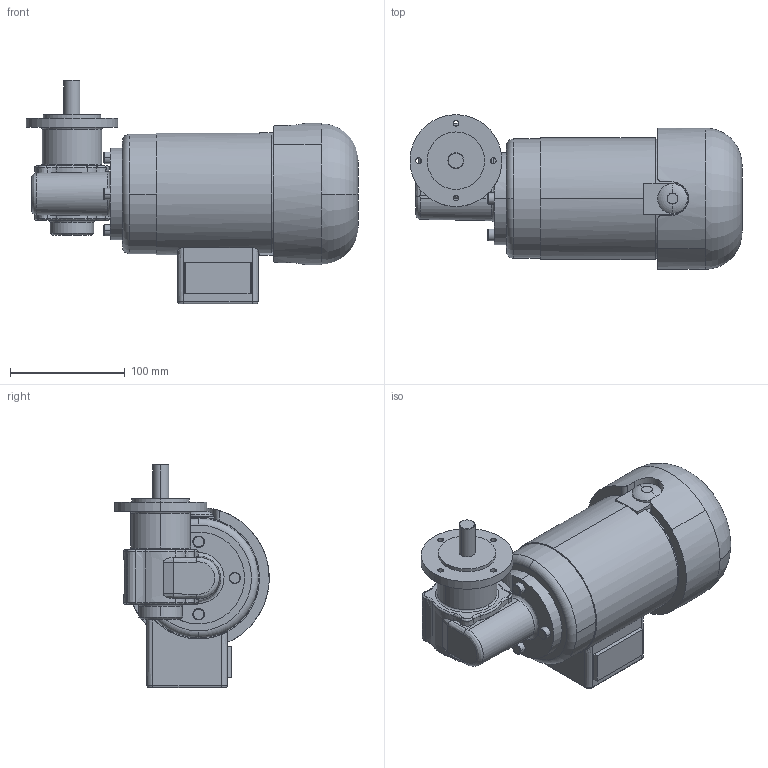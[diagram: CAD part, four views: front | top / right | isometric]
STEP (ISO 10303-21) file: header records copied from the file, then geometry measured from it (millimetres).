
FILE_DESCRIPTION(('OneSpaceDesigner STEP Export'),'2;1');
FILE_NAME('KGOG61-62_GF132_E.stp','2008-08-18T10:55:04',(''),(''),'OneSpace Designer STEP processor (Jan. 2003) for AP214(CD)(Solid Model)','OneSpace Designer 12.01D 09-Jul-2004 (C) CoCreate Software GmbH','');
FILE_SCHEMA(('AUTOMOTIVE_DESIGN_CC2 {1 2 10303 214 -1 1 5 1}'));
Length unit declared in the file: millimetre
Products named in the file (2): KGOG61-62_GF132_E
Assembly tree (1 placements, depth 2):
  KGOG61-62_GF132_E
    KGOG61-62_GF132_E
Bounding box: 289 x 134.5 x 194.5 mm (x, y, z)
Volume: 2593337.8 mm3; surface area: 142771.6 mm2
Topology: 1 solids, 1 shells, 204 faces, 516 edges, 327 vertices
Faces by surface type: plane 52, cylinder 52, bspline 47, extrusion 29, torus 14, cone 10
Entity records: 17832 total; most frequent: CARTESIAN_POINT 13806, ORIENTED_EDGE 1032, EDGE_CURVE 516, DIRECTION 498, VERTEX_POINT 327, EDGE_LOOP 225, FACE_OUTER_BOUND 204, ADVANCED_FACE 204
